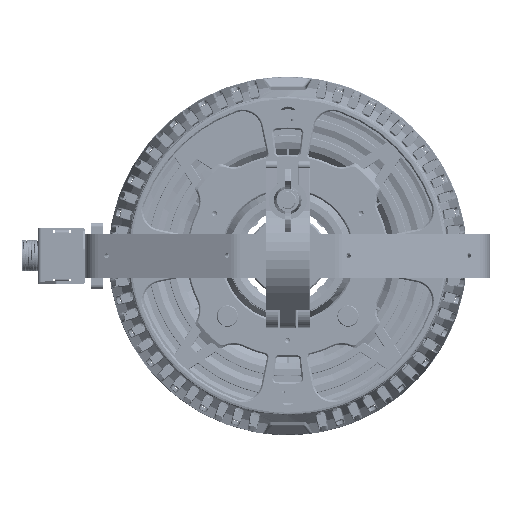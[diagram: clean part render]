
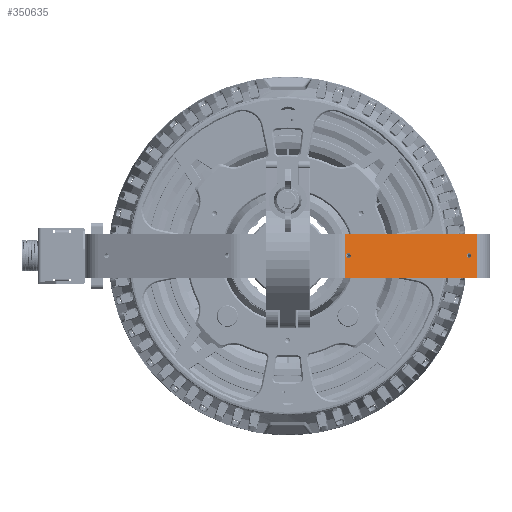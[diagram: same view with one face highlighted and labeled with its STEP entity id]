
A CAD part, top view. The second image highlights one B-rep face of the part: STEP entity #350635.
In plain terms, the highlighted planar face has unit normal (0.413, 0, 0.911) as drawn and (0.413, 0.911, 0) by its records, which use the part's own axes.
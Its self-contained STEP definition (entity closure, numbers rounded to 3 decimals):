
#833 = ORIENTED_EDGE ( 'NONE', *, *, #263009, .T. ) ;
#3677 = EDGE_CURVE ( 'NONE', #58572, #125308, #34020, .T. ) ;
#13645 = CARTESIAN_POINT ( 'NONE',  ( 41.282, 82.47, 0. ) ) ;
#27526 = ORIENTED_EDGE ( 'NONE', *, *, #220730, .F. ) ;
#28234 = CARTESIAN_POINT ( 'NONE',  ( 123.236, 45.273, 0. ) ) ;
#31716 = DIRECTION ( 'NONE',  ( 0., 0., 1. ) ) ;
#33594 = CARTESIAN_POINT ( 'NONE',  ( 38.663, 83.659, -126.295 ) ) ;
#34020 = LINE ( 'NONE', #200946, #261942 ) ;
#39326 = CARTESIAN_POINT ( 'NONE',  ( 42.785, 81.788, 0. ) ) ;
#53849 = EDGE_CURVE ( 'NONE', #178381, #284173, #91414, .T. ) ;
#58572 = VERTEX_POINT ( 'NONE', #269603 ) ;
#63317 = CARTESIAN_POINT ( 'NONE',  ( 128.7, 42.793, -126.295 ) ) ;
#75748 = ORIENTED_EDGE ( 'NONE', *, *, #243161, .T. ) ;
#78642 = ORIENTED_EDGE ( 'NONE', *, *, #239344, .T. ) ;
#79544 = CARTESIAN_POINT ( 'NONE',  ( 128.7, 42.793, 15. ) ) ;
#80911 = VERTEX_POINT ( 'NONE', #79544 ) ;
#83292 = DIRECTION ( 'NONE',  ( 0.413, 0.911, 0. ) ) ;
#87491 = CIRCLE ( 'NONE', #99419, 1.65 ) ;
#90079 = LINE ( 'NONE', #266407, #273948 ) ;
#91414 = CIRCLE ( 'NONE', #315517, 1.65 ) ;
#95254 = DIRECTION ( 'NONE',  ( 0.413, 0.911, 0. ) ) ;
#97337 = LINE ( 'NONE', #63317, #371675 ) ;
#99419 = AXIS2_PLACEMENT_3D ( 'NONE', #13645, #95254, #100854 ) ;
#100854 = DIRECTION ( 'NONE',  ( -0.911, 0.413, 0. ) ) ;
#105275 = DIRECTION ( 'NONE',  ( -0.911, 0.413, 0. ) ) ;
#105592 = CARTESIAN_POINT ( 'NONE',  ( 39.78, 83.152, 0. ) ) ;
#113014 = AXIS2_PLACEMENT_3D ( 'NONE', #28234, #83292, #143937 ) ;
#118931 = LINE ( 'NONE', #33594, #269522 ) ;
#125308 = VERTEX_POINT ( 'NONE', #316514 ) ;
#134219 = CARTESIAN_POINT ( 'NONE',  ( 124.738, 44.591, 0. ) ) ;
#137066 = CARTESIAN_POINT ( 'NONE',  ( 121.733, 45.955, 0. ) ) ;
#138246 = CARTESIAN_POINT ( 'NONE',  ( 36.693, 84.553, -126.295 ) ) ;
#142053 = CARTESIAN_POINT ( 'NONE',  ( 41.282, 82.47, 0. ) ) ;
#143937 = DIRECTION ( 'NONE',  ( -0.911, 0.413, 0. ) ) ;
#160273 = DIRECTION ( 'NONE',  ( 0.413, 0.911, 0. ) ) ;
#161186 = AXIS2_PLACEMENT_3D ( 'NONE', #138246, #253921, #369554 ) ;
#162152 = CARTESIAN_POINT ( 'NONE',  ( 123.236, 45.273, 0. ) ) ;
#178381 = VERTEX_POINT ( 'NONE', #134219 ) ;
#180202 = CIRCLE ( 'NONE', #210488, 1.65 ) ;
#183744 = EDGE_CURVE ( 'NONE', #334124, #185138, #87491, .T. ) ;
#185138 = VERTEX_POINT ( 'NONE', #105592 ) ;
#189547 = FACE_OUTER_BOUND ( 'NONE', #273149, .T. ) ;
#191767 = CIRCLE ( 'NONE', #113014, 1.65 ) ;
#193658 = EDGE_CURVE ( 'NONE', #185138, #334124, #180202, .T. ) ;
#200946 = CARTESIAN_POINT ( 'NONE',  ( 36.693, 84.553, -15. ) ) ;
#210488 = AXIS2_PLACEMENT_3D ( 'NONE', #142053, #257727, #288023 ) ;
#211360 = DIRECTION ( 'NONE',  ( 0.911, -0.413, 0. ) ) ;
#220730 = EDGE_CURVE ( 'NONE', #284173, #178381, #191767, .T. ) ;
#223603 = FACE_BOUND ( 'NONE', #341230, .T. ) ;
#223614 = ORIENTED_EDGE ( 'NONE', *, *, #53849, .F. ) ;
#239344 = EDGE_CURVE ( 'NONE', #255097, #80911, #90079, .T. ) ;
#243161 = EDGE_CURVE ( 'NONE', #80911, #125308, #97337, .T. ) ;
#253921 = DIRECTION ( 'NONE',  ( -0.413, -0.911, 0. ) ) ;
#255097 = VERTEX_POINT ( 'NONE', #272380 ) ;
#257049 = EDGE_LOOP ( 'NONE', ( #361760, #340430 ) ) ;
#257727 = DIRECTION ( 'NONE',  ( 0.413, 0.911, 0. ) ) ;
#259736 = DIRECTION ( 'NONE',  ( 0.911, -0.413, 0. ) ) ;
#261942 = VECTOR ( 'NONE', #259736, 1000. ) ;
#263009 = EDGE_CURVE ( 'NONE', #58572, #255097, #118931, .T. ) ;
#266407 = CARTESIAN_POINT ( 'NONE',  ( 36.693, 84.553, 15. ) ) ;
#269522 = VECTOR ( 'NONE', #31716, 1000. ) ;
#269603 = CARTESIAN_POINT ( 'NONE',  ( 38.663, 83.659, -15. ) ) ;
#272380 = CARTESIAN_POINT ( 'NONE',  ( 38.663, 83.659, 15. ) ) ;
#273149 = EDGE_LOOP ( 'NONE', ( #295618, #833, #78642, #75748 ) ) ;
#273948 = VECTOR ( 'NONE', #211360, 1000. ) ;
#282382 = FACE_BOUND ( 'NONE', #257049, .T. ) ;
#284173 = VERTEX_POINT ( 'NONE', #137066 ) ;
#288023 = DIRECTION ( 'NONE',  ( -0.911, 0.413, 0. ) ) ;
#294654 = DIRECTION ( 'NONE',  ( 0., 0., -1. ) ) ;
#295618 = ORIENTED_EDGE ( 'NONE', *, *, #3677, .F. ) ;
#315517 = AXIS2_PLACEMENT_3D ( 'NONE', #162152, #160273, #105275 ) ;
#316514 = CARTESIAN_POINT ( 'NONE',  ( 128.7, 42.793, -15. ) ) ;
#334124 = VERTEX_POINT ( 'NONE', #39326 ) ;
#339220 = PLANE ( 'NONE',  #161186 ) ;
#340430 = ORIENTED_EDGE ( 'NONE', *, *, #183744, .F. ) ;
#341230 = EDGE_LOOP ( 'NONE', ( #27526, #223614 ) ) ;
#350635 = ADVANCED_FACE ( 'NONE', ( #282382, #223603, #189547 ), #339220, .F. ) ;
#361760 = ORIENTED_EDGE ( 'NONE', *, *, #193658, .F. ) ;
#369554 = DIRECTION ( 'NONE',  ( -0.911, 0.413, 0. ) ) ;
#371675 = VECTOR ( 'NONE', #294654, 1000. ) ;
